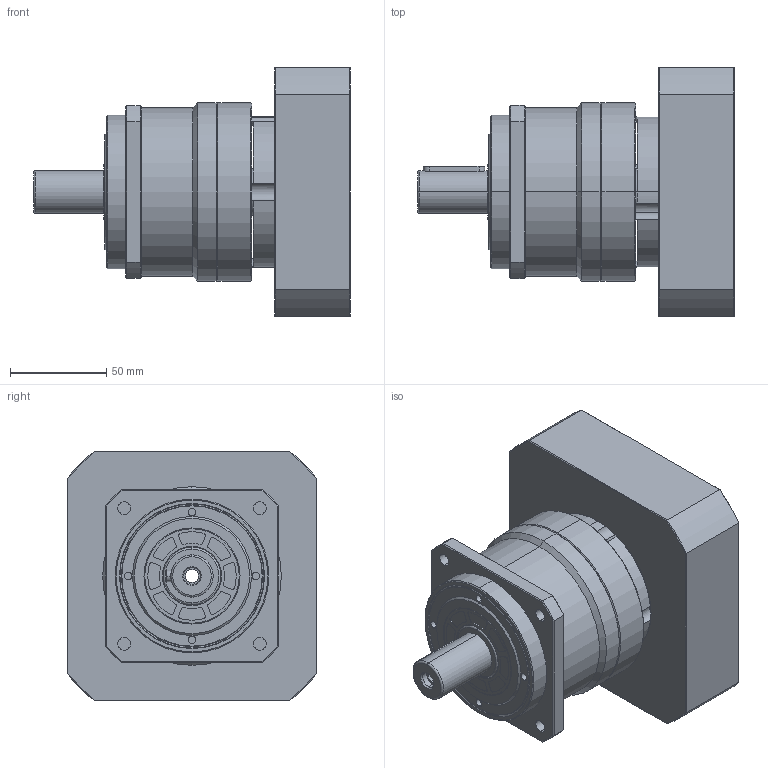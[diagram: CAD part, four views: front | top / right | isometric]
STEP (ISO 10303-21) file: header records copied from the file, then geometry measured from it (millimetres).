
FILE_DESCRIPTION (( 'STEP AP203' ), '1' );
FILE_NAME ('KS90-5-110-24-60-M8-145.STEP', '2020-08-12T02:15:20', ( '微软用户' ), ( '微软中国' ), 'SwSTEP 2.0', 'SolidWorks 2008', '' );
FILE_SCHEMA (( 'CONFIG_CONTROL_DESIGN' ));
Length unit declared in the file: millimetre
Products named in the file (1): KS90-5-110-24-60-M8-145
Bounding box: 165 x 130 x 130 mm (x, y, z)
Surface area: 118593.4 mm2 (no closed solid volume)
Topology: 0 solids, 20 shells, 356 faces, 1117 edges, 762 vertices
Faces by surface type: cylinder 146, plane 129, cone 59, torus 22
Entity records: 12930 total; most frequent: CARTESIAN_POINT 2780, DIRECTION 2270, ORIENTED_EDGE 1818, EDGE_CURVE 1117, AXIS2_PLACEMENT_3D 884, VERTEX_POINT 762, CIRCLE 527, VECTOR 502
